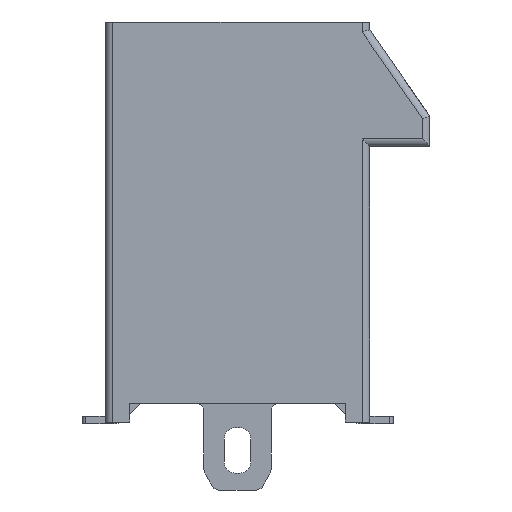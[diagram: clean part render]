
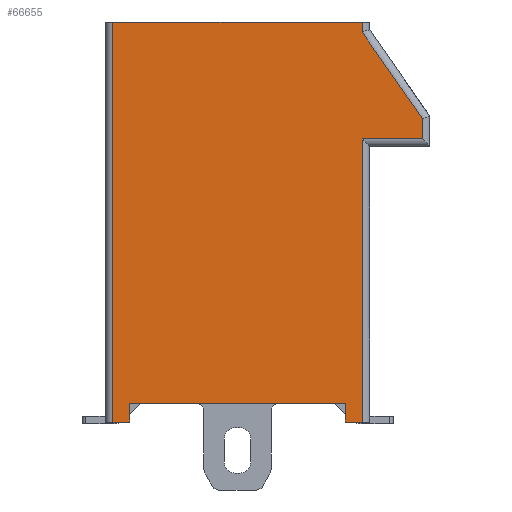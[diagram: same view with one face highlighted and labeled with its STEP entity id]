
A CAD part, left-side view. The second image highlights one B-rep face of the part: STEP entity #66655.
In plain terms, the highlighted planar face has unit normal (-1, 0, 0).
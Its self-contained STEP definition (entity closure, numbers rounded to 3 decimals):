
#2309=DIRECTION('',(0.,1.,0.));
#2310=VECTOR('',#2309,6.6);
#2311=CARTESIAN_POINT('',(-44.5,-3.3,10.75));
#2312=LINE('',#2311,#2310);
#2333=DIRECTION('',(0.,0.,-1.));
#2334=VECTOR('',#2333,10.6);
#2335=CARTESIAN_POINT('',(-44.5,3.3,10.75));
#2336=LINE('',#2335,#2334);
#2346=DIRECTION('',(0.,1.,0.));
#2347=VECTOR('',#2346,5.7);
#2348=CARTESIAN_POINT('',(-44.5,-2.85,0.65));
#2349=LINE('',#2348,#2347);
#2350=DIRECTION('',(0.,1.,0.));
#2351=VECTOR('',#2350,0.45);
#2352=CARTESIAN_POINT('',(-44.5,2.85,0.15));
#2353=LINE('',#2352,#2351);
#2354=DIRECTION('',(0.,-0.571,-0.821));
#2355=VECTOR('',#2354,2.802);
#2356=CARTESIAN_POINT('',(-44.5,-3.3,10.487));
#2357=LINE('',#2356,#2355);
#2358=DIRECTION('',(0.,1.,0.));
#2359=VECTOR('',#2358,0.45);
#2360=CARTESIAN_POINT('',(-44.5,-3.3,0.15));
#2361=LINE('',#2360,#2359);
#4230=DIRECTION('',(0.,0.,-1.));
#4231=VECTOR('',#4230,0.5);
#4232=CARTESIAN_POINT('',(-44.5,-2.85,0.65));
#4233=LINE('',#4232,#4231);
#4261=DIRECTION('',(0.,0.,1.));
#4262=VECTOR('',#4261,7.5);
#4263=CARTESIAN_POINT('',(-44.5,-3.3,0.15));
#4264=LINE('',#4263,#4262);
#4584=DIRECTION('',(0.,-1.,0.));
#4585=VECTOR('',#4584,1.6);
#4586=CARTESIAN_POINT('',(-44.5,-3.3,7.65));
#4587=LINE('',#4586,#4585);
#4596=DIRECTION('',(0.,0.,1.));
#4597=VECTOR('',#4596,0.537);
#4598=CARTESIAN_POINT('',(-44.5,-4.9,7.65));
#4599=LINE('',#4598,#4597);
#4624=DIRECTION('',(0.,0.,1.));
#4625=VECTOR('',#4624,0.263);
#4626=CARTESIAN_POINT('',(-44.5,-3.3,10.487));
#4627=LINE('',#4626,#4625);
#10626=DIRECTION('',(0.,0.,1.));
#10627=VECTOR('',#10626,0.5);
#10628=CARTESIAN_POINT('',(-44.5,2.85,0.15));
#10629=LINE('',#10628,#10627);
#48265=CARTESIAN_POINT('',(-44.5,3.3,10.75));
#48267=VERTEX_POINT('',#48265);
#48279=CARTESIAN_POINT('',(-44.5,-3.3,10.75));
#48280=VERTEX_POINT('',#48279);
#48290=CARTESIAN_POINT('',(-44.5,3.3,0.15));
#48292=VERTEX_POINT('',#48290);
#48293=CARTESIAN_POINT('',(-44.5,2.85,0.15));
#48294=VERTEX_POINT('',#48293);
#48299=CARTESIAN_POINT('',(-44.5,-2.85,0.65));
#48300=CARTESIAN_POINT('',(-44.5,2.85,0.65));
#48301=VERTEX_POINT('',#48299);
#48302=VERTEX_POINT('',#48300);
#48303=CARTESIAN_POINT('',(-44.5,-3.3,10.487));
#48304=VERTEX_POINT('',#48303);
#48305=CARTESIAN_POINT('',(-44.5,-4.9,8.187));
#48306=VERTEX_POINT('',#48305);
#48307=CARTESIAN_POINT('',(-44.5,-4.9,7.65));
#48308=VERTEX_POINT('',#48307);
#48309=CARTESIAN_POINT('',(-44.5,-3.3,7.65));
#48310=VERTEX_POINT('',#48309);
#48311=CARTESIAN_POINT('',(-44.5,-3.3,0.15));
#48312=VERTEX_POINT('',#48311);
#48313=CARTESIAN_POINT('',(-44.5,-2.85,0.15));
#48314=VERTEX_POINT('',#48313);
#66627=CARTESIAN_POINT('',(-44.5,3.5,0.));
#66628=DIRECTION('',(-1.,0.,0.));
#66629=DIRECTION('',(0.,-1.,0.));
#66630=AXIS2_PLACEMENT_3D('',#66627,#66628,#66629);
#66631=PLANE('',#66630);
#66633=ORIENTED_EDGE('',*,*,#66632,.T.);
#66635=ORIENTED_EDGE('',*,*,#66634,.F.);
#66636=ORIENTED_EDGE('',*,*,#66616,.T.);
#66637=ORIENTED_EDGE('',*,*,#66605,.F.);
#66638=ORIENTED_EDGE('',*,*,#66573,.F.);
#66640=ORIENTED_EDGE('',*,*,#66639,.F.);
#66642=ORIENTED_EDGE('',*,*,#66641,.T.);
#66644=ORIENTED_EDGE('',*,*,#66643,.F.);
#66646=ORIENTED_EDGE('',*,*,#66645,.F.);
#66648=ORIENTED_EDGE('',*,*,#66647,.F.);
#66650=ORIENTED_EDGE('',*,*,#66649,.T.);
#66652=ORIENTED_EDGE('',*,*,#66651,.F.);
#66653=EDGE_LOOP('',(#66633,#66635,#66636,#66637,#66638,#66640,#66642,#66644,
#66646,#66648,#66650,#66652));
#66654=FACE_OUTER_BOUND('',#66653,.F.);
#66655=ADVANCED_FACE('',(#66654),#66631,.T.);
#66573=EDGE_CURVE('',#48280,#48267,#2312,.T.);
#66605=EDGE_CURVE('',#48267,#48292,#2336,.T.);
#66616=EDGE_CURVE('',#48294,#48292,#2353,.T.);
#66632=EDGE_CURVE('',#48301,#48302,#2349,.T.);
#66634=EDGE_CURVE('',#48294,#48302,#10629,.T.);
#66639=EDGE_CURVE('',#48304,#48280,#4627,.T.);
#66641=EDGE_CURVE('',#48304,#48306,#2357,.T.);
#66643=EDGE_CURVE('',#48308,#48306,#4599,.T.);
#66645=EDGE_CURVE('',#48310,#48308,#4587,.T.);
#66647=EDGE_CURVE('',#48312,#48310,#4264,.T.);
#66649=EDGE_CURVE('',#48312,#48314,#2361,.T.);
#66651=EDGE_CURVE('',#48301,#48314,#4233,.T.);
